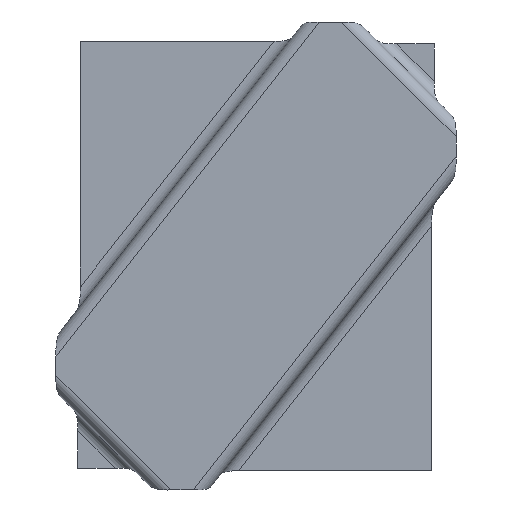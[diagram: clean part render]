
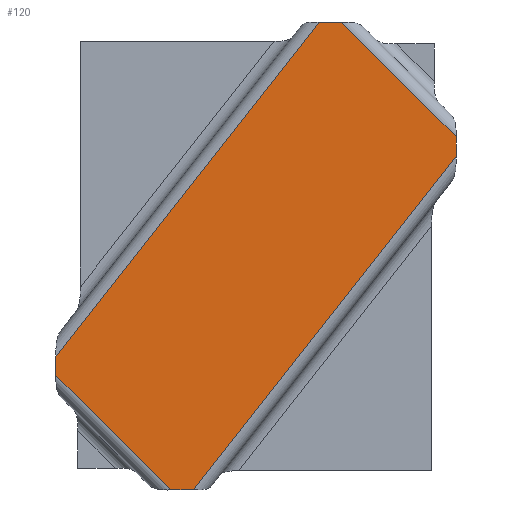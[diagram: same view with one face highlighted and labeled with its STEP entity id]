
A CAD part, top view. The second image highlights one B-rep face of the part: STEP entity #120.
In plain terms, the highlighted planar face has unit normal (0, 0, -1).
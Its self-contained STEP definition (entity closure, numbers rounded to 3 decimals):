
#53=CARTESIAN_POINT('Axis2P3D Location',(-50.96,40.138,65.369)) ;
#59=CARTESIAN_POINT('Control Point',(-50.96,79.592,65.369)) ;
#60=CARTESIAN_POINT('Control Point',(26.657,178.138,65.369)) ;
#61=CARTESIAN_POINT('Vertex',(-50.96,79.592,65.369)) ;
#63=CARTESIAN_POINT('Vertex',(26.657,178.138,65.369)) ;
#66=CARTESIAN_POINT('Line Origine',(8.04,178.138,65.369)) ;
#70=CARTESIAN_POINT('Vertex',(33.214,178.138,65.369)) ;
#74=CARTESIAN_POINT('Control Point',(33.214,178.138,65.369)) ;
#75=CARTESIAN_POINT('Control Point',(67.04,144.312,65.369)) ;
#76=CARTESIAN_POINT('Vertex',(67.04,144.312,65.369)) ;
#79=CARTESIAN_POINT('Line Origine',(67.04,109.138,65.369)) ;
#83=CARTESIAN_POINT('Vertex',(67.04,138.451,65.369)) ;
#87=CARTESIAN_POINT('Control Point',(67.04,138.451,65.369)) ;
#88=CARTESIAN_POINT('Control Point',(-10.395,40.138,65.369)) ;
#89=CARTESIAN_POINT('Vertex',(-10.395,40.138,65.369)) ;
#92=CARTESIAN_POINT('Line Origine',(8.04,40.138,65.369)) ;
#96=CARTESIAN_POINT('Vertex',(-17.135,40.138,65.369)) ;
#100=CARTESIAN_POINT('Control Point',(-50.96,73.964,65.369)) ;
#101=CARTESIAN_POINT('Control Point',(-17.135,40.138,65.369)) ;
#102=CARTESIAN_POINT('Vertex',(-50.96,73.964,65.369)) ;
#105=CARTESIAN_POINT('Line Origine',(-50.96,109.138,65.369)) ;
#54=DIRECTION('Axis2P3D Direction',(0.,0.,1.)) ;
#55=DIRECTION('Axis2P3D XDirection',(1.,0.,0.)) ;
#67=DIRECTION('Vector Direction',(1.,0.,0.)) ;
#80=DIRECTION('Vector Direction',(0.,1.,0.)) ;
#93=DIRECTION('Vector Direction',(1.,0.,0.)) ;
#106=DIRECTION('Vector Direction',(0.,1.,0.)) ;
#56=AXIS2_PLACEMENT_3D('Plane Axis2P3D',#53,#54,#55) ;
#111=ORIENTED_EDGE('',*,*,#65,.T.) ;
#112=ORIENTED_EDGE('',*,*,#72,.T.) ;
#113=ORIENTED_EDGE('',*,*,#78,.T.) ;
#114=ORIENTED_EDGE('',*,*,#85,.T.) ;
#115=ORIENTED_EDGE('',*,*,#91,.T.) ;
#116=ORIENTED_EDGE('',*,*,#98,.T.) ;
#117=ORIENTED_EDGE('',*,*,#104,.F.) ;
#118=ORIENTED_EDGE('',*,*,#109,.T.) ;
#68=VECTOR('Line Direction',#67,1.) ;
#81=VECTOR('Line Direction',#80,1.) ;
#94=VECTOR('Line Direction',#93,1.) ;
#107=VECTOR('Line Direction',#106,1.) ;
#120=ADVANCED_FACE('Offset.1',(#119),#57,.F.) ;
#58=B_SPLINE_CURVE_WITH_KNOTS('',1,(#59,#60),.UNSPECIFIED.,.F.,.U.,(2,2),(-62.721,62.721),.UNSPECIFIED.) ;
#73=B_SPLINE_CURVE_WITH_KNOTS('',1,(#74,#75),.UNSPECIFIED.,.F.,.U.,(2,2),(-23.919,23.919),.UNSPECIFIED.) ;
#86=B_SPLINE_CURVE_WITH_KNOTS('',1,(#87,#88),.UNSPECIFIED.,.F.,.U.,(2,2),(-62.573,62.573),.UNSPECIFIED.) ;
#99=B_SPLINE_CURVE_WITH_KNOTS('',1,(#100,#101),.UNSPECIFIED.,.F.,.U.,(2,2),(-23.919,23.919),.UNSPECIFIED.) ;
#65=EDGE_CURVE('',#62,#64,#58,.T.) ;
#72=EDGE_CURVE('',#64,#71,#69,.T.) ;
#78=EDGE_CURVE('',#71,#77,#73,.T.) ;
#85=EDGE_CURVE('',#77,#84,#82,.F.) ;
#91=EDGE_CURVE('',#84,#90,#86,.T.) ;
#98=EDGE_CURVE('',#90,#97,#95,.F.) ;
#104=EDGE_CURVE('',#103,#97,#99,.T.) ;
#109=EDGE_CURVE('',#103,#62,#108,.T.) ;
#110=EDGE_LOOP('',(#111,#112,#113,#114,#115,#116,#117,#118)) ;
#119=FACE_OUTER_BOUND('',#110,.T.) ;
#69=LINE('Line',#66,#68) ;
#82=LINE('Line',#79,#81) ;
#95=LINE('Line',#92,#94) ;
#108=LINE('Line',#105,#107) ;
#57=PLANE('',#56) ;
#62=VERTEX_POINT('',#61) ;
#64=VERTEX_POINT('',#63) ;
#71=VERTEX_POINT('',#70) ;
#77=VERTEX_POINT('',#76) ;
#84=VERTEX_POINT('',#83) ;
#90=VERTEX_POINT('',#89) ;
#97=VERTEX_POINT('',#96) ;
#103=VERTEX_POINT('',#102) ;
